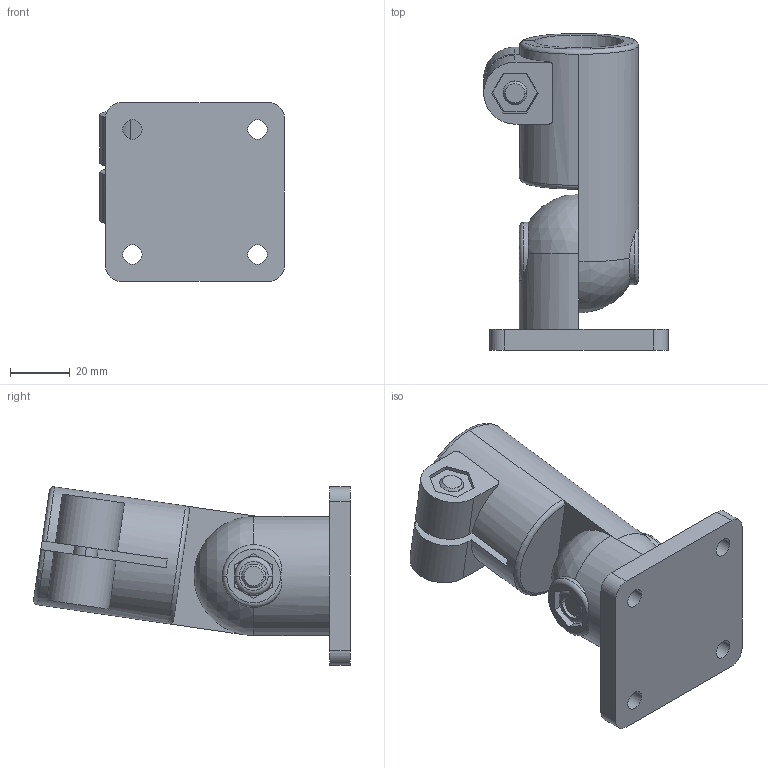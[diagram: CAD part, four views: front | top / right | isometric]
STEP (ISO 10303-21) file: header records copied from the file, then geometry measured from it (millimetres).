
FILE_DESCRIPTION((''),'2;1');
FILE_NAME('6155671070_ASM','2008-04-23T',('sdanet'),(''),'PRO/ENGINEER BY PARAMETRIC TECHNOLOGY CORPORATION, 2007310','PRO/ENGINEER BY PARAMETRIC TECHNOLOGY CORPORATION, 2007310','');
FILE_SCHEMA(('AUTOMOTIVE_DESIGN_CC2 { 1 2 10303 214 -1 1 5 2 }'));
Length unit declared in the file: millimetre
Products named in the file (5): MAURIN-9227240AVSW; MUTTER_M8_STOP_NONE; BE28244; MAURIN-SCHRAUBE286M8BL; 6155671070_ASM
Assembly tree (4 placements, depth 2):
  6155671070_ASM
    MAURIN-9227240AVSW
    MUTTER_M8_STOP_NONE
    BE28244
    MAURIN-SCHRAUBE286M8BL
Bounding box: 62 x 106.42 x 60 mm (x, y, z)
Volume: 109367.3 mm3; surface area: 38933.6 mm2
Topology: 4 solids, 6 shells, 178 faces, 428 edges, 275 vertices
Faces by surface type: plane 96, cylinder 58, torus 18, cone 4, sphere 2
Entity records: 6966 total; most frequent: CARTESIAN_POINT 1227, DIRECTION 940, ORIENTED_EDGE 846, PRESENTATION_STYLE_ASSIGNMENT 433, STYLED_ITEM 433, CURVE_STYLE 427, EDGE_CURVE 427, AXIS2_PLACEMENT_3D 352
